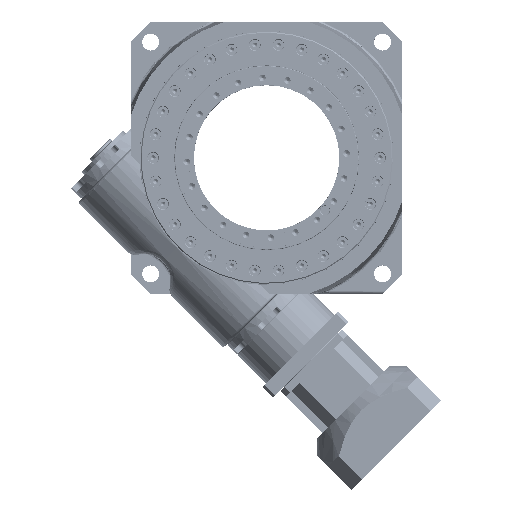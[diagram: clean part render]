
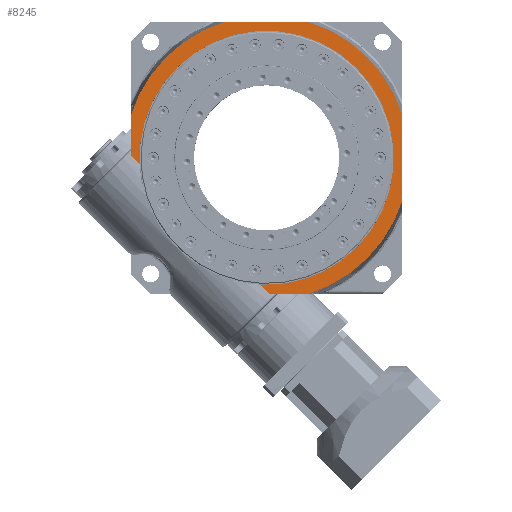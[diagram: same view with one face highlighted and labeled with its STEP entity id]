
A CAD part, top view. The second image highlights one B-rep face of the part: STEP entity #8245.
In plain terms, the highlighted planar face has unit normal (0, 0, 1).
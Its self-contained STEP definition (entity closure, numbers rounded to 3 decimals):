
#373=DIRECTION('',(-0.707,0.707,0.));
#374=VECTOR('',#373,12.953);
#375=CARTESIAN_POINT('',(-130.841,-6.456,144.));
#376=LINE('',#375,#374);
#389=CARTESIAN_POINT('',(-130.841,-6.456,144.));
#391=CARTESIAN_POINT('',(-6.456,-130.841,144.));
#405=DIRECTION('',(-0.707,0.707,0.));
#406=VECTOR('',#405,12.953);
#407=CARTESIAN_POINT('',(2.703,-140.,144.));
#408=LINE('',#407,#406);
#1528=CARTESIAN_POINT('',(44.219,-139.859,144.));
#1529=CARTESIAN_POINT('',(44.12,-139.89,144.));
#1530=CARTESIAN_POINT('',(43.92,-139.942,144.));
#1531=CARTESIAN_POINT('',(43.613,-139.989,144.));
#1532=CARTESIAN_POINT('',(43.407,-140.,144.));
#1533=CARTESIAN_POINT('',(43.303,-140.,144.));
#1535=DIRECTION('',(1.,0.,0.));
#1536=VECTOR('',#1535,40.6);
#1537=CARTESIAN_POINT('',(2.703,-140.,144.));
#1538=LINE('',#1537,#1536);
#1539=CARTESIAN_POINT('',(0.,0.,144.));
#1540=DIRECTION('',(0.,0.,1.));
#1541=DIRECTION('',(-0.049,-0.999,0.));
#1542=AXIS2_PLACEMENT_3D('',#1539,#1540,#1541);
#1544=CARTESIAN_POINT('',(0.,0.,144.));
#1545=DIRECTION('',(0.,0.,1.));
#1546=DIRECTION('',(0.707,0.707,0.));
#1547=AXIS2_PLACEMENT_3D('',#1544,#1545,#1546);
#1549=DIRECTION('',(0.,-1.,0.));
#1550=VECTOR('',#1549,41.066);
#1551=CARTESIAN_POINT('',(-140.,43.769,144.));
#1552=LINE('',#1551,#1550);
#1553=CARTESIAN_POINT('',(0.,0.,144.));
#1554=DIRECTION('',(0.,0.,1.));
#1555=DIRECTION('',(-0.298,0.954,0.));
#1556=AXIS2_PLACEMENT_3D('',#1553,#1554,#1555);
#1558=DIRECTION('',(-1.,0.,0.));
#1559=VECTOR('',#1558,87.539);
#1560=CARTESIAN_POINT('',(43.769,140.,144.));
#1561=LINE('',#1560,#1559);
#1562=CARTESIAN_POINT('',(0.,0.,144.));
#1563=DIRECTION('',(0.,0.,1.));
#1564=DIRECTION('',(0.954,0.298,0.));
#1565=AXIS2_PLACEMENT_3D('',#1562,#1563,#1564);
#1567=DIRECTION('',(0.,1.,0.));
#1568=VECTOR('',#1567,87.539);
#1569=CARTESIAN_POINT('',(140.,-43.769,144.));
#1570=LINE('',#1569,#1568);
#1571=CARTESIAN_POINT('',(0.,0.,144.));
#1572=DIRECTION('',(0.,0.,1.));
#1573=DIRECTION('',(0.301,-0.953,0.));
#1574=AXIS2_PLACEMENT_3D('',#1571,#1572,#1573);
#5416=VERTEX_POINT('',#389);
#5417=VERTEX_POINT('',#391);
#6375=CARTESIAN_POINT('',(140.,-43.769,144.));
#6376=CARTESIAN_POINT('',(140.,43.769,144.));
#6377=VERTEX_POINT('',#6375);
#6378=VERTEX_POINT('',#6376);
#6379=CARTESIAN_POINT('',(43.769,140.,144.));
#6380=VERTEX_POINT('',#6379);
#6381=CARTESIAN_POINT('',(-43.769,140.,144.));
#6382=VERTEX_POINT('',#6381);
#6383=CARTESIAN_POINT('',(-140.,43.769,144.));
#6384=VERTEX_POINT('',#6383);
#6385=CARTESIAN_POINT('',(92.631,92.631,144.));
#6386=VERTEX_POINT('',#6385);
#6387=CARTESIAN_POINT('',(2.703,-140.,144.));
#6388=VERTEX_POINT('',#6387);
#6389=CARTESIAN_POINT('',(-140.,2.703,144.));
#6390=VERTEX_POINT('',#6389);
#6399=VERTEX_POINT('',#1528);
#6400=VERTEX_POINT('',#1533);
#8221=CARTESIAN_POINT('',(0.,0.,144.));
#8222=DIRECTION('',(0.,0.,1.));
#8223=DIRECTION('',(-1.,0.,0.));
#8224=AXIS2_PLACEMENT_3D('',#8221,#8222,#8223);
#8225=PLANE('',#8224);
#8227=ORIENTED_EDGE('',*,*,#8226,.T.);
#8228=ORIENTED_EDGE('',*,*,#8050,.F.);
#8229=ORIENTED_EDGE('',*,*,#6795,.T.);
#8231=ORIENTED_EDGE('',*,*,#8230,.T.);
#8233=ORIENTED_EDGE('',*,*,#8232,.T.);
#8234=ORIENTED_EDGE('',*,*,#6789,.T.);
#8235=ORIENTED_EDGE('',*,*,#6737,.F.);
#8236=ORIENTED_EDGE('',*,*,#6517,.F.);
#8237=ORIENTED_EDGE('',*,*,#6483,.F.);
#8238=ORIENTED_EDGE('',*,*,#6497,.F.);
#8240=ORIENTED_EDGE('',*,*,#8239,.F.);
#8242=ORIENTED_EDGE('',*,*,#8241,.F.);
#8243=EDGE_LOOP('',(#8227,#8228,#8229,#8231,#8233,#8234,#8235,#8236,#8237,#8238,
#8240,#8242));
#8244=FACE_OUTER_BOUND('',#8243,.F.);
#1534=B_SPLINE_CURVE_WITH_KNOTS('',3,(#1528,#1529,#1530,#1531,#1532,#1533),
.UNSPECIFIED.,.F.,.F.,(4,1,1,4),(0.,0.333,0.667,1.),
.UNSPECIFIED.);
#1543=CIRCLE('',#1542,131.);
#1548=CIRCLE('',#1547,131.);
#1557=CIRCLE('',#1556,146.683);
#1566=CIRCLE('',#1565,146.683);
#1575=CIRCLE('',#1574,146.683);
#6483=EDGE_CURVE('',#6380,#6382,#1561,.T.);
#6497=EDGE_CURVE('',#6378,#6380,#1566,.T.);
#6517=EDGE_CURVE('',#6382,#6384,#1557,.T.);
#6737=EDGE_CURVE('',#6384,#6390,#1552,.T.);
#6789=EDGE_CURVE('',#5416,#6390,#376,.T.);
#6795=EDGE_CURVE('',#6388,#5417,#408,.T.);
#8050=EDGE_CURVE('',#6388,#6400,#1538,.T.);
#8226=EDGE_CURVE('',#6399,#6400,#1534,.T.);
#8230=EDGE_CURVE('',#5417,#6386,#1543,.T.);
#8232=EDGE_CURVE('',#6386,#5416,#1548,.T.);
#8239=EDGE_CURVE('',#6377,#6378,#1570,.T.);
#8241=EDGE_CURVE('',#6399,#6377,#1575,.T.);
#8245=ADVANCED_FACE('',(#8244),#8225,.T.);
